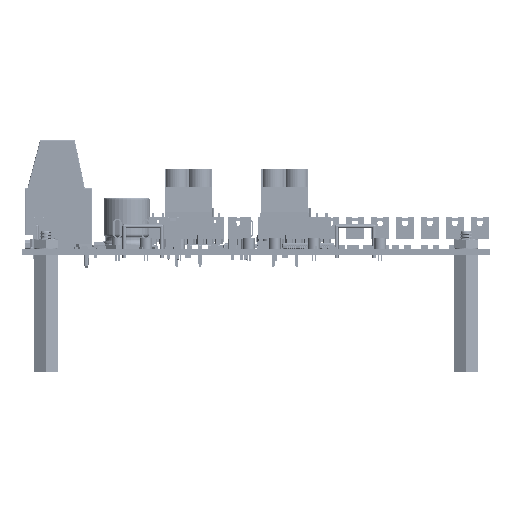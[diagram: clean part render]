
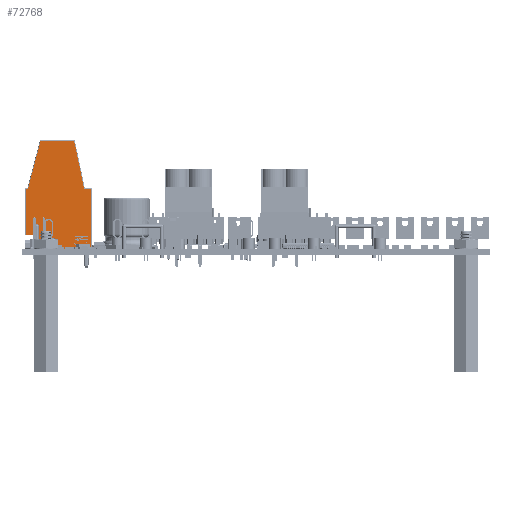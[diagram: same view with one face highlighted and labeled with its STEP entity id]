
A CAD part, left-side view. The second image highlights one B-rep face of the part: STEP entity #72768.
In plain terms, the highlighted planar face has unit normal (-1, 0, 0) as drawn and (1, 0, 0) by its records, which use the part's own axes.
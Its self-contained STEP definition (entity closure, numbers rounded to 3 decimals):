
#72624 = VERTEX_POINT('',#72625);
#72625 = CARTESIAN_POINT('',(20.32,29.2,-10.717));
#72634 = VERTEX_POINT('',#72635);
#72635 = CARTESIAN_POINT('',(20.32,29.2,-1.58));
#72642 = EDGE_CURVE('',#72634,#72624,#72643,.T.);
#72643 = LINE('',#72644,#72645);
#72644 = CARTESIAN_POINT('',(20.32,29.2,-2.305));
#72645 = VECTOR('',#72646,1.);
#72646 = DIRECTION('',(0.,0.,-1.));
#72741 = EDGE_CURVE('',#72624,#72742,#72744,.T.);
#72742 = VERTEX_POINT('',#72743);
#72743 = CARTESIAN_POINT('',(20.32,16.518,-13.371));
#72744 = LINE('',#72745,#72746);
#72745 = CARTESIAN_POINT('',(20.32,10.435,-14.644));
#72746 = VECTOR('',#72747,1.);
#72747 = DIRECTION('',(0.,-0.979,-0.205));
#72768 = ADVANCED_FACE('',(#72769),#72853,.T.);
#72769 = FACE_BOUND('',#72770,.T.);
#72770 = EDGE_LOOP('',(#72771,#72772,#72780,#72789,#72797,#72805,#72813,
    #72821,#72829,#72837,#72845,#72852));
#72771 = ORIENTED_EDGE('',*,*,#72642,.F.);
#72772 = ORIENTED_EDGE('',*,*,#72773,.F.);
#72773 = EDGE_CURVE('',#72774,#72634,#72776,.T.);
#72774 = VERTEX_POINT('',#72775);
#72775 = CARTESIAN_POINT('',(20.32,16.498,1.767));
#72776 = LINE('',#72777,#72778);
#72777 = CARTESIAN_POINT('',(20.32,16.311,1.817));
#72778 = VECTOR('',#72779,1.);
#72779 = DIRECTION('',(0.,0.967,-0.255));
#72780 = ORIENTED_EDGE('',*,*,#72781,.F.);
#72781 = EDGE_CURVE('',#72782,#72774,#72784,.T.);
#72782 = VERTEX_POINT('',#72783);
#72783 = CARTESIAN_POINT('',(20.32,16.2,2.154));
#72784 = CIRCLE('',#72785,0.4);
#72785 = AXIS2_PLACEMENT_3D('',#72786,#72787,#72788);
#72786 = CARTESIAN_POINT('',(20.32,16.6,2.154));
#72787 = DIRECTION('',(1.,0.,0.));
#72788 = DIRECTION('',(0.,-0.792,-0.61));
#72789 = ORIENTED_EDGE('',*,*,#72790,.F.);
#72790 = EDGE_CURVE('',#72791,#72782,#72793,.T.);
#72791 = VERTEX_POINT('',#72792);
#72792 = CARTESIAN_POINT('',(20.32,16.2,2.5));
#72793 = LINE('',#72794,#72795);
#72794 = CARTESIAN_POINT('',(20.32,16.2,0.143));
#72795 = VECTOR('',#72796,1.);
#72796 = DIRECTION('',(0.,0.,-1.));
#72797 = ORIENTED_EDGE('',*,*,#72798,.F.);
#72798 = EDGE_CURVE('',#72799,#72791,#72801,.T.);
#72799 = VERTEX_POINT('',#72800);
#72800 = CARTESIAN_POINT('',(20.32,3.8,2.5));
#72801 = LINE('',#72802,#72803);
#72802 = CARTESIAN_POINT('',(20.32,8.972,2.5));
#72803 = VECTOR('',#72804,1.);
#72804 = DIRECTION('',(0.,1.,0.));
#72805 = ORIENTED_EDGE('',*,*,#72806,.T.);
#72806 = EDGE_CURVE('',#72799,#72807,#72809,.T.);
#72807 = VERTEX_POINT('',#72808);
#72808 = CARTESIAN_POINT('',(20.32,3.8,0.));
#72809 = LINE('',#72810,#72811);
#72810 = CARTESIAN_POINT('',(20.32,3.8,-9.056));
#72811 = VECTOR('',#72812,1.);
#72812 = DIRECTION('',(0.,0.,-1.));
#72813 = ORIENTED_EDGE('',*,*,#72814,.F.);
#72814 = EDGE_CURVE('',#72815,#72807,#72817,.T.);
#72815 = VERTEX_POINT('',#72816);
#72816 = CARTESIAN_POINT('',(20.32,0.,
    0.));
#72817 = LINE('',#72818,#72819);
#72818 = CARTESIAN_POINT('',(20.32,7.836,0.));
#72819 = VECTOR('',#72820,1.);
#72820 = DIRECTION('',(0.,1.,0.));
#72821 = ORIENTED_EDGE('',*,*,#72822,.T.);
#72822 = EDGE_CURVE('',#72815,#72823,#72825,.T.);
#72823 = VERTEX_POINT('',#72824);
#72824 = CARTESIAN_POINT('',(20.32,0.,-15.4));
#72825 = LINE('',#72826,#72827);
#72826 = CARTESIAN_POINT('',(20.32,0.,-9.056)
  );
#72827 = VECTOR('',#72828,1.);
#72828 = DIRECTION('',(0.,0.,-1.));
#72829 = ORIENTED_EDGE('',*,*,#72830,.F.);
#72830 = EDGE_CURVE('',#72831,#72823,#72833,.T.);
#72831 = VERTEX_POINT('',#72832);
#72832 = CARTESIAN_POINT('',(20.32,16.2,-15.4));
#72833 = LINE('',#72834,#72835);
#72834 = CARTESIAN_POINT('',(20.32,8.972,-15.4));
#72835 = VECTOR('',#72836,1.);
#72836 = DIRECTION('',(0.,-1.,0.));
#72837 = ORIENTED_EDGE('',*,*,#72838,.F.);
#72838 = EDGE_CURVE('',#72839,#72831,#72841,.T.);
#72839 = VERTEX_POINT('',#72840);
#72840 = CARTESIAN_POINT('',(20.32,16.2,-13.762));
#72841 = LINE('',#72842,#72843);
#72842 = CARTESIAN_POINT('',(20.32,16.2,-8.657));
#72843 = VECTOR('',#72844,1.);
#72844 = DIRECTION('',(0.,0.,-1.));
#72845 = ORIENTED_EDGE('',*,*,#72846,.F.);
#72846 = EDGE_CURVE('',#72742,#72839,#72847,.T.);
#72847 = CIRCLE('',#72848,0.4);
#72848 = AXIS2_PLACEMENT_3D('',#72849,#72850,#72851);
#72849 = CARTESIAN_POINT('',(20.32,16.6,-13.762));
#72850 = DIRECTION('',(1.,0.,0.));
#72851 = DIRECTION('',(0.,-0.776,0.631));
#72852 = ORIENTED_EDGE('',*,*,#72741,.F.);
#72853 = PLANE('',#72854);
#72854 = AXIS2_PLACEMENT_3D('',#72855,#72856,#72857);
#72855 = CARTESIAN_POINT('',(20.32,1.544,-1.713));
#72856 = DIRECTION('',(1.,0.,0.));
#72857 = DIRECTION('',(0.,0.,-1.));
